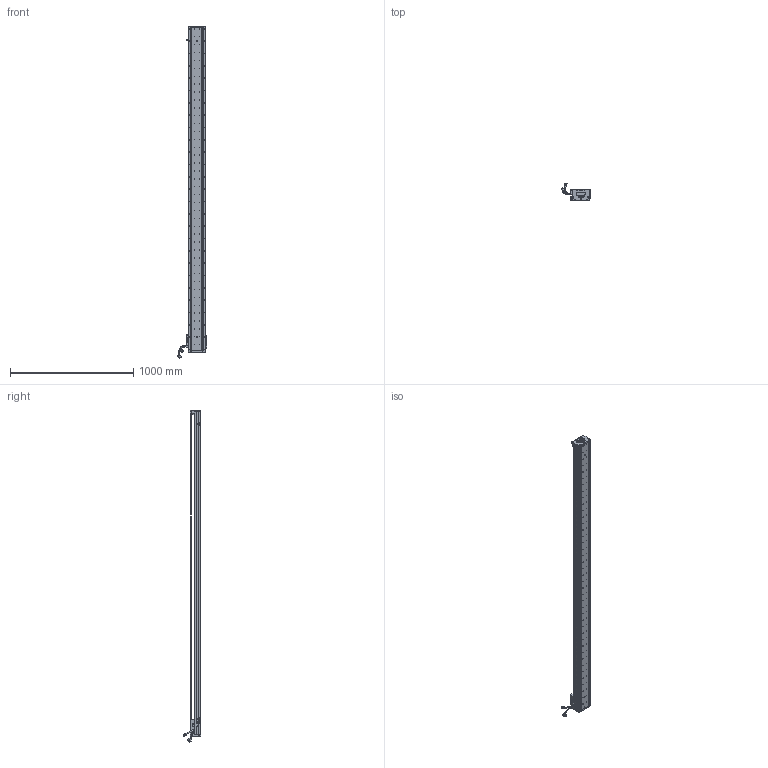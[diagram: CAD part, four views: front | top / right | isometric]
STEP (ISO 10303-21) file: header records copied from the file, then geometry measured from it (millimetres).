
FILE_DESCRIPTION (( 'STEP AP203' ), '1' );
FILE_NAME ('Z1-RY140D-1-L500-B-K.SLDASM_2450.step', '2021-05-17T07:35:16', ( '盈信电脑' ), ( '东莞市道滘镇水果街19号' ), 'SwSTEP 2.0', 'SolidWorks 2016', '' );
FILE_SCHEMA (( 'CONFIG_CONTROL_DESIGN' ));
Length unit declared in the file: millimetre
Products named in the file (36): Z-RY140詩湍奻揤裔; SEAL; 140-Z-臏賑輸盄裔(21遴); SCALE-Part-1; SEAL-Part-1; LABEL; SCALE-Part-2; Z1-RY140圉猾敕臏賑輸(21遴); SCREW-M1.6-2; SCREW-M1.6-3; LABEL-Part-1; SCREW-M1.7-1; Z-140詩湍傷裔啣; HOLDER0; COVER-Part-1; Z1-RY140-L500詩湍100mm遵_2450; PBU_SHEET; SCREW-M1.6-1; COVER; HARNESS; Z-RY140詩湍狟揤裔; SCREW-M1.6; HARNESS-Part-2; 080黍杅芛假蚾釱21遴; 140雄赽晤鎢ん堤盄; SHIELDPLATE; PSLH080_PSLF2; HARNESS-Part-1; Z1-RY140D-1-L500-B-K.SLDASM_2450; SCREW-M1.7; Z-RY140感应器672光电感应片; 140蚥薯蝶輸; Z1-RY140-L500直线电机模组底座_2450; 榋妏寠巭燃_暯_M2_2; SCALE; 覜茼ん672
Assembly tree (41 placements, depth 4):
  Z1-RY140D-1-L500-B-K.SLDASM_2450
    Z1-RY140-L500直线电机模组底座_2450
    Z-RY140感应器672光电感应片
    Z1-RY140圉猾敕臏賑輸(21遴)
    覜茼ん672  x3
    Z1-RY140-L500詩湍100mm遵_2450
    PSLH080_PSLF2
      SCALE
        SCALE-Part-1
        SCALE-Part-2
      HARNESS
        HARNESS-Part-1
        HARNESS-Part-2
      LABEL
        LABEL-Part-1
      COVER
        COVER-Part-1
      SEAL
        SEAL-Part-1
      榋妏寠巭燃_暯_M2_2
      SHIELDPLATE
      SCREW-M1.7
      SCREW-M1.7-1
      PBU_SHEET
      SCREW-M1.6
      SCREW-M1.6-1
      SCREW-M1.6-2
      SCREW-M1.6-3
      HOLDER0
    080黍杅芛假蚾釱21遴
    140-Z-臏賑輸盄裔(21遴)
    Z-140詩湍傷裔啣  x2
    Z-RY140詩湍狟揤裔  x2
    Z-RY140詩湍奻揤裔  x2
    140蚥薯蝶輸  x2
    140雄赽晤鎢ん堤盄
Bounding box: 239.79 x 143.88 x 2690.87 mm (x, y, z)
Volume: 8214978 mm3; surface area: 2181137.2 mm2
Topology: 36 solids, 36 shells, 4088 faces, 11162 edges, 7083 vertices
Faces by surface type: cylinder 2220, plane 1372, cone 374, torus 69, bspline 53
Entity records: 130470 total; most frequent: CARTESIAN_POINT 37417, ORIENTED_EDGE 19268, DIRECTION 17638, EDGE_CURVE 9634, AXIS2_PLACEMENT_3D 6536, VERTEX_POINT 6251, VECTOR 4566, LINE 4566
